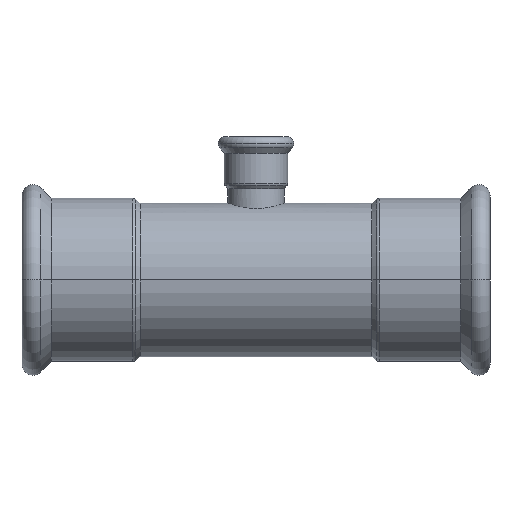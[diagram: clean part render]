
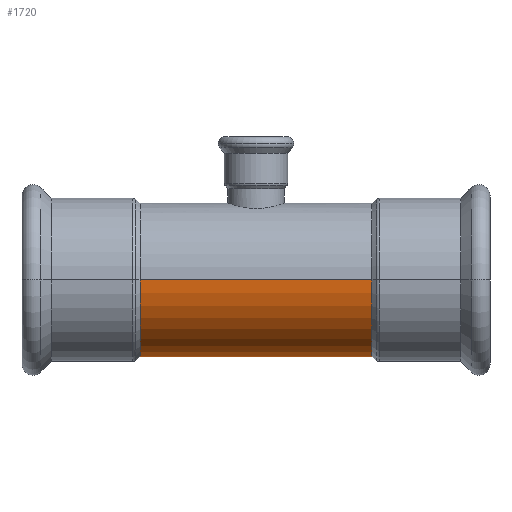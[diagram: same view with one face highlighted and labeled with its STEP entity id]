
A CAD part, front view. The second image highlights one B-rep face of the part: STEP entity #1720.
In plain terms, the highlighted cylindrical face has radius 38.05 mm (diameter 76.1 mm), a partial arc.
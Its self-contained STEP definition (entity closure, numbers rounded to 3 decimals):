
#1310=CARTESIAN_POINT('',(-346.806,-3.327,0.));
#1320=DIRECTION('',(1.,0.,0.));
#1330=DIRECTION('',(0.,0.,-1.));
#1340=AXIS2_PLACEMENT_3D('',#1310,#1320,#1330);
#1350=CYLINDRICAL_SURFACE('',#1340,38.05);
#1360=CARTESIAN_POINT('',(-346.806,-3.327,38.05));
#1370=DIRECTION('',(1.,0.,0.));
#1380=VECTOR('',#1370,1.);
#1390=LINE('',#1360,#1380);
#1400=CARTESIAN_POINT('',(-461.806,-3.327,38.05));
#1410=VERTEX_POINT('',#1400);
#1420=CARTESIAN_POINT('',(-346.806,-3.327,38.05));
#1430=VERTEX_POINT('',#1420);
#1440=EDGE_CURVE('',#1410,#1430,#1390,.T.);
#1450=ORIENTED_EDGE('',*,*,#1440,.F.);
#1460=CARTESIAN_POINT('',(-346.806,-3.327,0.));
#1470=DIRECTION('',(1.,0.,0.));
#1480=DIRECTION('',(0.,0.,-1.));
#1490=AXIS2_PLACEMENT_3D('',#1460,#1470,#1480);
#1500=CIRCLE('',#1490,38.05);
#1510=CARTESIAN_POINT('',(-346.806,-3.327,-38.05));
#1520=VERTEX_POINT('',#1510);
#1530=EDGE_CURVE('',#1430,#1520,#1500,.T.);
#1540=ORIENTED_EDGE('',*,*,#1530,.F.);
#1550=CARTESIAN_POINT('',(-346.806,-3.327,-38.05));
#1560=DIRECTION('',(1.,0.,0.));
#1570=VECTOR('',#1560,1.);
#1580=LINE('',#1550,#1570);
#1590=CARTESIAN_POINT('',(-461.806,-3.327,-38.05));
#1600=VERTEX_POINT('',#1590);
#1610=EDGE_CURVE('',#1600,#1520,#1580,.T.);
#1620=ORIENTED_EDGE('',*,*,#1610,.T.);
#1630=CARTESIAN_POINT('',(-461.806,-3.327,0.));
#1640=DIRECTION('',(1.,0.,0.));
#1650=DIRECTION('',(0.,0.,-1.));
#1660=AXIS2_PLACEMENT_3D('',#1630,#1640,#1650);
#1670=CIRCLE('',#1660,38.05);
#1680=EDGE_CURVE('',#1410,#1600,#1670,.T.);
#1690=ORIENTED_EDGE('',*,*,#1680,.T.);
#1700=EDGE_LOOP('',(#1690,#1620,#1540,#1450));
#1710=FACE_OUTER_BOUND('',#1700,.T.);
#1720=ADVANCED_FACE('',(#1710),#1350,.T.);
